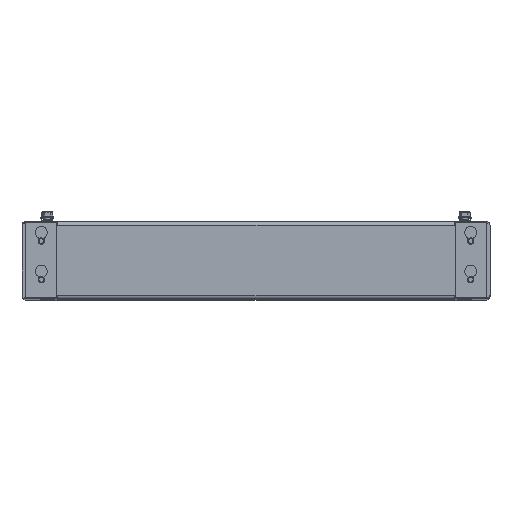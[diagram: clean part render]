
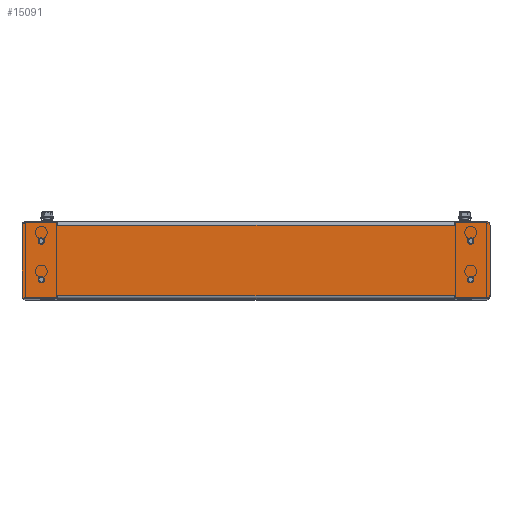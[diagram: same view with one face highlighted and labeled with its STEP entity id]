
A CAD part, top view. The second image highlights one B-rep face of the part: STEP entity #15091.
In plain terms, the highlighted planar face has unit normal (0, 0, 1) as drawn and (0, 0, -1) by its records, which use the part's own axes.
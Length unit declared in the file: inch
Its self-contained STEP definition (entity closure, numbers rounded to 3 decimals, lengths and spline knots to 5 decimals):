
#14228=CARTESIAN_POINT('',(-11.9375,1.8125,-0.104));
#14229=DIRECTION('',(0.,0.,-1.));
#14230=DIRECTION('',(-1.,0.,0.));
#14231=AXIS2_PLACEMENT_3D('',#14228,#14229,#14230);
#14233=DIRECTION('',(0.,-1.,0.));
#14234=VECTOR('',#14233,3.625);
#14235=CARTESIAN_POINT('',(-12.125,1.8125,-0.104));
#14236=LINE('',#14235,#14234);
#14237=CARTESIAN_POINT('',(-11.9375,-1.8125,-0.104));
#14238=DIRECTION('',(0.,0.,-1.));
#14239=DIRECTION('',(0.,-1.,0.));
#14240=AXIS2_PLACEMENT_3D('',#14237,#14238,#14239);
#14242=DIRECTION('',(1.,0.,0.));
#14243=VECTOR('',#14242,1.62562);
#14244=CARTESIAN_POINT('',(-11.9375,-2.,-0.104));
#14245=LINE('',#14244,#14243);
#14246=DIRECTION('',(0.174,0.985,0.));
#14247=VECTOR('',#14246,0.17668);
#14248=CARTESIAN_POINT('',(-10.31188,-2.,-0.104));
#14249=LINE('',#14248,#14247);
#14250=DIRECTION('',(1.,0.,0.));
#14251=VECTOR('',#14250,0.0156);
#14252=CARTESIAN_POINT('',(-10.2812,-1.826,-0.104));
#14253=LINE('',#14252,#14251);
#14254=DIRECTION('',(-1.,0.,0.));
#14255=VECTOR('',#14254,0.0156);
#14256=CARTESIAN_POINT('',(10.2812,-1.826,-0.104));
#14257=LINE('',#14256,#14255);
#14258=DIRECTION('',(-0.174,0.985,0.));
#14259=VECTOR('',#14258,0.17668);
#14260=CARTESIAN_POINT('',(10.31188,-2.,-0.104));
#14261=LINE('',#14260,#14259);
#14262=DIRECTION('',(1.,0.,0.));
#14263=VECTOR('',#14262,1.62562);
#14264=CARTESIAN_POINT('',(10.31188,-2.,-0.104));
#14265=LINE('',#14264,#14263);
#14266=CARTESIAN_POINT('',(11.9375,-1.8125,-0.104));
#14267=DIRECTION('',(0.,0.,-1.));
#14268=DIRECTION('',(1.,0.,0.));
#14269=AXIS2_PLACEMENT_3D('',#14266,#14267,#14268);
#14271=DIRECTION('',(0.,1.,0.));
#14272=VECTOR('',#14271,3.625);
#14273=CARTESIAN_POINT('',(12.125,-1.8125,-0.104));
#14274=LINE('',#14273,#14272);
#14275=CARTESIAN_POINT('',(11.9375,1.8125,-0.104));
#14276=DIRECTION('',(0.,0.,-1.));
#14277=DIRECTION('',(0.,1.,0.));
#14278=AXIS2_PLACEMENT_3D('',#14275,#14276,#14277);
#14280=DIRECTION('',(-1.,0.,0.));
#14281=VECTOR('',#14280,1.62562);
#14282=CARTESIAN_POINT('',(11.9375,2.,-0.104));
#14283=LINE('',#14282,#14281);
#14284=DIRECTION('',(-0.174,-0.985,0.));
#14285=VECTOR('',#14284,0.17668);
#14286=CARTESIAN_POINT('',(10.31188,2.,-0.104));
#14287=LINE('',#14286,#14285);
#14288=DIRECTION('',(-1.,0.,0.));
#14289=VECTOR('',#14288,0.0156);
#14290=CARTESIAN_POINT('',(10.2812,1.826,-0.104));
#14291=LINE('',#14290,#14289);
#14292=DIRECTION('',(1.,0.,0.));
#14293=VECTOR('',#14292,0.0156);
#14294=CARTESIAN_POINT('',(-10.2812,1.826,-0.104));
#14295=LINE('',#14294,#14293);
#14296=DIRECTION('',(0.174,-0.985,0.));
#14297=VECTOR('',#14296,0.17668);
#14298=CARTESIAN_POINT('',(-10.31188,2.,-0.104));
#14299=LINE('',#14298,#14297);
#14300=DIRECTION('',(-1.,0.,0.));
#14301=VECTOR('',#14300,1.62562);
#14302=CARTESIAN_POINT('',(-10.31188,2.,-0.104));
#14303=LINE('',#14302,#14301);
#14304=CARTESIAN_POINT('',(11.125,1.,-0.104));
#14305=DIRECTION('',(0.,0.,-1.));
#14306=DIRECTION('',(-1.,0.,0.));
#14307=AXIS2_PLACEMENT_3D('',#14304,#14305,#14306);
#14309=CARTESIAN_POINT('',(11.125,1.,-0.104));
#14310=DIRECTION('',(0.,0.,-1.));
#14311=DIRECTION('',(1.,0.,0.));
#14312=AXIS2_PLACEMENT_3D('',#14309,#14310,#14311);
#14314=CARTESIAN_POINT('',(11.125,-1.,-0.104));
#14315=DIRECTION('',(0.,0.,-1.));
#14316=DIRECTION('',(-1.,0.,0.));
#14317=AXIS2_PLACEMENT_3D('',#14314,#14315,#14316);
#14319=CARTESIAN_POINT('',(11.125,-1.,-0.104));
#14320=DIRECTION('',(0.,0.,-1.));
#14321=DIRECTION('',(1.,0.,0.));
#14322=AXIS2_PLACEMENT_3D('',#14319,#14320,#14321);
#14324=CARTESIAN_POINT('',(-11.125,1.,-0.104));
#14325=DIRECTION('',(0.,0.,-1.));
#14326=DIRECTION('',(-1.,0.,0.));
#14327=AXIS2_PLACEMENT_3D('',#14324,#14325,#14326);
#14329=CARTESIAN_POINT('',(-11.125,1.,-0.104));
#14330=DIRECTION('',(0.,0.,-1.));
#14331=DIRECTION('',(1.,0.,0.));
#14332=AXIS2_PLACEMENT_3D('',#14329,#14330,#14331);
#14334=CARTESIAN_POINT('',(-11.125,-1.,-0.104));
#14335=DIRECTION('',(0.,0.,-1.));
#14336=DIRECTION('',(-1.,0.,0.));
#14337=AXIS2_PLACEMENT_3D('',#14334,#14335,#14336);
#14339=CARTESIAN_POINT('',(-11.125,-1.,-0.104));
#14340=DIRECTION('',(0.,0.,-1.));
#14341=DIRECTION('',(1.,0.,0.));
#14342=AXIS2_PLACEMENT_3D('',#14339,#14340,#14341);
#14518=DIRECTION('',(1.,0.,0.));
#14519=VECTOR('',#14518,20.5312);
#14520=CARTESIAN_POINT('',(-10.2656,1.826,-0.104));
#14521=LINE('',#14520,#14519);
#14712=DIRECTION('',(-1.,0.,0.));
#14713=VECTOR('',#14712,20.5312);
#14714=CARTESIAN_POINT('',(10.2656,-1.826,-0.104));
#14715=LINE('',#14714,#14713);
#14866=CARTESIAN_POINT('',(10.2812,1.826,-0.104));
#14867=CARTESIAN_POINT('',(10.2656,1.826,-0.104));
#14868=VERTEX_POINT('',#14866);
#14869=VERTEX_POINT('',#14867);
#14870=CARTESIAN_POINT('',(10.31188,2.,-0.104));
#14871=VERTEX_POINT('',#14870);
#14878=CARTESIAN_POINT('',(-10.2812,1.826,-0.104));
#14879=CARTESIAN_POINT('',(-10.2656,1.826,-0.104));
#14880=VERTEX_POINT('',#14878);
#14881=VERTEX_POINT('',#14879);
#14882=CARTESIAN_POINT('',(-10.31188,2.,-0.104));
#14883=VERTEX_POINT('',#14882);
#14906=CARTESIAN_POINT('',(-10.2812,-1.826,-0.104));
#14907=CARTESIAN_POINT('',(-10.2656,-1.826,-0.104));
#14908=VERTEX_POINT('',#14906);
#14909=VERTEX_POINT('',#14907);
#14910=CARTESIAN_POINT('',(-10.31188,-2.,-0.104));
#14911=VERTEX_POINT('',#14910);
#14918=CARTESIAN_POINT('',(10.2812,-1.826,-0.104));
#14919=CARTESIAN_POINT('',(10.2656,-1.826,-0.104));
#14920=VERTEX_POINT('',#14918);
#14921=VERTEX_POINT('',#14919);
#14922=CARTESIAN_POINT('',(10.31188,-2.,-0.104));
#14923=VERTEX_POINT('',#14922);
#14960=CARTESIAN_POINT('',(-12.125,1.8125,-0.104));
#14961=VERTEX_POINT('',#14960);
#14962=CARTESIAN_POINT('',(-11.9375,2.,-0.104));
#14963=VERTEX_POINT('',#14962);
#14968=CARTESIAN_POINT('',(-11.9375,-2.,-0.104));
#14969=VERTEX_POINT('',#14968);
#14970=CARTESIAN_POINT('',(-12.125,-1.8125,-0.104));
#14971=VERTEX_POINT('',#14970);
#14976=CARTESIAN_POINT('',(11.9375,2.,-0.104));
#14977=VERTEX_POINT('',#14976);
#14978=CARTESIAN_POINT('',(12.125,1.8125,-0.104));
#14979=VERTEX_POINT('',#14978);
#14984=CARTESIAN_POINT('',(12.125,-1.8125,-0.104));
#14985=VERTEX_POINT('',#14984);
#14986=CARTESIAN_POINT('',(11.9375,-2.,-0.104));
#14987=VERTEX_POINT('',#14986);
#14988=CARTESIAN_POINT('',(11.,1.,-0.104));
#14989=CARTESIAN_POINT('',(11.25,1.,-0.104));
#14990=VERTEX_POINT('',#14988);
#14991=VERTEX_POINT('',#14989);
#14992=CARTESIAN_POINT('',(11.,-1.,-0.104));
#14993=CARTESIAN_POINT('',(11.25,-1.,-0.104));
#14994=VERTEX_POINT('',#14992);
#14995=VERTEX_POINT('',#14993);
#14996=CARTESIAN_POINT('',(-11.25,1.,-0.104));
#14997=CARTESIAN_POINT('',(-11.,1.,-0.104));
#14998=VERTEX_POINT('',#14996);
#14999=VERTEX_POINT('',#14997);
#15000=CARTESIAN_POINT('',(-11.25,-1.,-0.104));
#15001=CARTESIAN_POINT('',(-11.,-1.,-0.104));
#15002=VERTEX_POINT('',#15000);
#15003=VERTEX_POINT('',#15001);
#15020=CARTESIAN_POINT('',(0.,0.,-0.104));
#15021=DIRECTION('',(0.,0.,1.));
#15022=DIRECTION('',(1.,0.,0.));
#15023=AXIS2_PLACEMENT_3D('',#15020,#15021,#15022);
#15024=PLANE('',#15023);
#15026=ORIENTED_EDGE('',*,*,#15025,.F.);
#15028=ORIENTED_EDGE('',*,*,#15027,.T.);
#15030=ORIENTED_EDGE('',*,*,#15029,.F.);
#15032=ORIENTED_EDGE('',*,*,#15031,.T.);
#15034=ORIENTED_EDGE('',*,*,#15033,.T.);
#15036=ORIENTED_EDGE('',*,*,#15035,.T.);
#15038=ORIENTED_EDGE('',*,*,#15037,.F.);
#15040=ORIENTED_EDGE('',*,*,#15039,.F.);
#15042=ORIENTED_EDGE('',*,*,#15041,.F.);
#15044=ORIENTED_EDGE('',*,*,#15043,.T.);
#15046=ORIENTED_EDGE('',*,*,#15045,.F.);
#15048=ORIENTED_EDGE('',*,*,#15047,.T.);
#15050=ORIENTED_EDGE('',*,*,#15049,.F.);
#15052=ORIENTED_EDGE('',*,*,#15051,.T.);
#15054=ORIENTED_EDGE('',*,*,#15053,.T.);
#15056=ORIENTED_EDGE('',*,*,#15055,.T.);
#15058=ORIENTED_EDGE('',*,*,#15057,.F.);
#15060=ORIENTED_EDGE('',*,*,#15059,.F.);
#15062=ORIENTED_EDGE('',*,*,#15061,.F.);
#15064=ORIENTED_EDGE('',*,*,#15063,.T.);
#15065=EDGE_LOOP('',(#15026,#15028,#15030,#15032,#15034,#15036,#15038,#15040,
#15042,#15044,#15046,#15048,#15050,#15052,#15054,#15056,#15058,#15060,#15062,
#15064));
#15066=FACE_OUTER_BOUND('',#15065,.F.);
#15068=ORIENTED_EDGE('',*,*,#15067,.T.);
#15070=ORIENTED_EDGE('',*,*,#15069,.T.);
#15071=EDGE_LOOP('',(#15068,#15070));
#15072=FACE_BOUND('',#15071,.F.);
#15074=ORIENTED_EDGE('',*,*,#15073,.T.);
#15076=ORIENTED_EDGE('',*,*,#15075,.T.);
#15077=EDGE_LOOP('',(#15074,#15076));
#15078=FACE_BOUND('',#15077,.F.);
#15080=ORIENTED_EDGE('',*,*,#15079,.T.);
#15082=ORIENTED_EDGE('',*,*,#15081,.T.);
#15083=EDGE_LOOP('',(#15080,#15082));
#15084=FACE_BOUND('',#15083,.F.);
#15086=ORIENTED_EDGE('',*,*,#15085,.T.);
#15088=ORIENTED_EDGE('',*,*,#15087,.T.);
#15089=EDGE_LOOP('',(#15086,#15088));
#15090=FACE_BOUND('',#15089,.F.);
#14232=CIRCLE('',#14231,0.1875);
#14241=CIRCLE('',#14240,0.1875);
#14270=CIRCLE('',#14269,0.1875);
#14279=CIRCLE('',#14278,0.1875);
#14308=CIRCLE('',#14307,0.125);
#14313=CIRCLE('',#14312,0.125);
#14318=CIRCLE('',#14317,0.125);
#14323=CIRCLE('',#14322,0.125);
#14328=CIRCLE('',#14327,0.125);
#14333=CIRCLE('',#14332,0.125);
#14338=CIRCLE('',#14337,0.125);
#14343=CIRCLE('',#14342,0.125);
#15025=EDGE_CURVE('',#14961,#14963,#14232,.T.);
#15027=EDGE_CURVE('',#14961,#14971,#14236,.T.);
#15029=EDGE_CURVE('',#14969,#14971,#14241,.T.);
#15031=EDGE_CURVE('',#14969,#14911,#14245,.T.);
#15033=EDGE_CURVE('',#14911,#14908,#14249,.T.);
#15035=EDGE_CURVE('',#14908,#14909,#14253,.T.);
#15037=EDGE_CURVE('',#14921,#14909,#14715,.T.);
#15039=EDGE_CURVE('',#14920,#14921,#14257,.T.);
#15041=EDGE_CURVE('',#14923,#14920,#14261,.T.);
#15043=EDGE_CURVE('',#14923,#14987,#14265,.T.);
#15045=EDGE_CURVE('',#14985,#14987,#14270,.T.);
#15047=EDGE_CURVE('',#14985,#14979,#14274,.T.);
#15049=EDGE_CURVE('',#14977,#14979,#14279,.T.);
#15051=EDGE_CURVE('',#14977,#14871,#14283,.T.);
#15053=EDGE_CURVE('',#14871,#14868,#14287,.T.);
#15055=EDGE_CURVE('',#14868,#14869,#14291,.T.);
#15057=EDGE_CURVE('',#14881,#14869,#14521,.T.);
#15059=EDGE_CURVE('',#14880,#14881,#14295,.T.);
#15061=EDGE_CURVE('',#14883,#14880,#14299,.T.);
#15063=EDGE_CURVE('',#14883,#14963,#14303,.T.);
#15067=EDGE_CURVE('',#14990,#14991,#14308,.T.);
#15069=EDGE_CURVE('',#14991,#14990,#14313,.T.);
#15073=EDGE_CURVE('',#14994,#14995,#14318,.T.);
#15075=EDGE_CURVE('',#14995,#14994,#14323,.T.);
#15079=EDGE_CURVE('',#14998,#14999,#14328,.T.);
#15081=EDGE_CURVE('',#14999,#14998,#14333,.T.);
#15085=EDGE_CURVE('',#15002,#15003,#14338,.T.);
#15087=EDGE_CURVE('',#15003,#15002,#14343,.T.);
#15091=ADVANCED_FACE('',(#15066,#15072,#15078,#15084,#15090),#15024,.F.);
